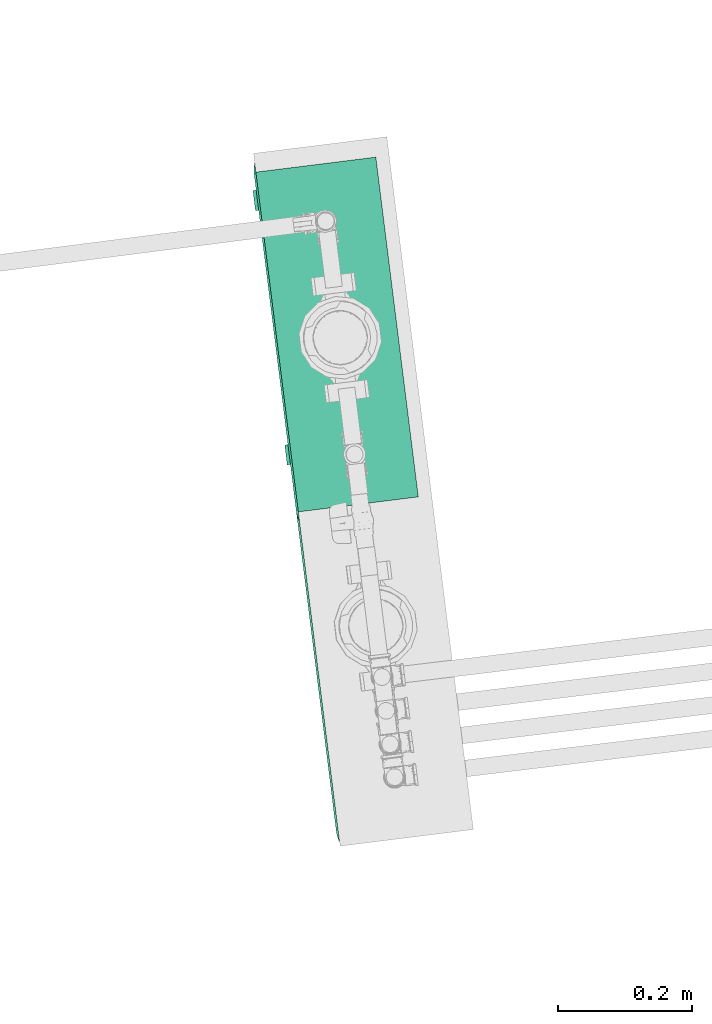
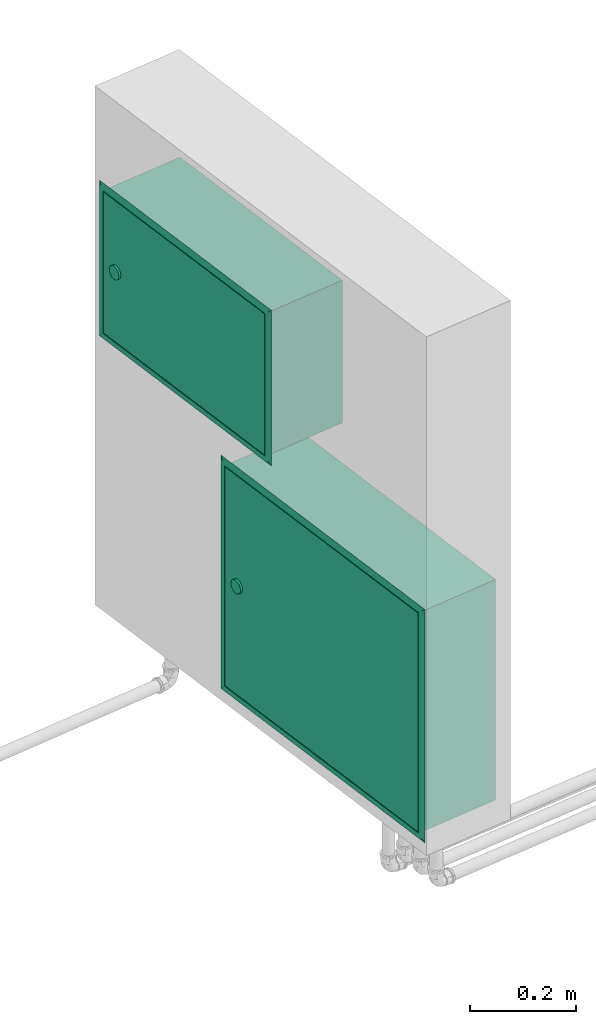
# One storey, part 96 of 97: 2 flow terminals.
"""IFC2X3 building model written with IfcOpenShell, lengths in centimetres."""

from ifc_helpers import new_model, entity, si_unit, converted_unit, derived_unit, direction, frame, origin, place, context, subcontext, project, spatial, faceted_brep, source, transform, mapped, material, material_list, type_object, type_shapes, element, save


model = new_model("IFC2X3")

# Units and contexts
model_context = context("Model", 3, precision=0.001, world=origin(), true_north=direction((6.12303176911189e-17, 1.0)))
body_context = subcontext(model_context, "Body", "Model", "MODEL_VIEW")
ifc_project = project(units=[si_unit("LENGTHUNIT", "METRE", prefix="CENTI"), si_unit("AREAUNIT", "SQUARE_METRE"), si_unit("VOLUMEUNIT", "CUBIC_METRE"), converted_unit("PLANEANGLEUNIT", "DEGREE", entity("IfcRatioMeasure", 0.0174532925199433), si_unit("PLANEANGLEUNIT", "RADIAN"), dimensions=[0, 0, 0, 0, 0, 0, 0]), si_unit("MASSUNIT", "GRAM", prefix="KILO"), derived_unit("MASSDENSITYUNIT", [(si_unit("MASSUNIT", "GRAM", prefix="KILO"), 1), (si_unit("LENGTHUNIT", "METRE"), -3)]), derived_unit("MOMENTOFINERTIAUNIT", [(si_unit("LENGTHUNIT", "METRE"), 4)]), si_unit("TIMEUNIT", "SECOND"), si_unit("FREQUENCYUNIT", "HERTZ"), si_unit("THERMODYNAMICTEMPERATUREUNIT", "DEGREE_CELSIUS"), derived_unit("THERMALTRANSMITTANCEUNIT", [(si_unit("MASSUNIT", "GRAM", prefix="KILO"), 1), (si_unit("THERMODYNAMICTEMPERATUREUNIT", "KELVIN"), -1), (si_unit("TIMEUNIT", "SECOND"), -3)]), derived_unit("VOLUMETRICFLOWRATEUNIT", [(si_unit("LENGTHUNIT", "METRE"), 3), (si_unit("TIMEUNIT", "SECOND"), -1)]), si_unit("ELECTRICCURRENTUNIT", "AMPERE"), si_unit("ELECTRICVOLTAGEUNIT", "VOLT"), si_unit("POWERUNIT", "WATT"), si_unit("FORCEUNIT", "NEWTON", prefix="KILO"), si_unit("ILLUMINANCEUNIT", "LUX"), si_unit("LUMINOUSFLUXUNIT", "LUMEN"), si_unit("LUMINOUSINTENSITYUNIT", "CANDELA"), derived_unit("USERDEFINED", [(si_unit("MASSUNIT", "GRAM", prefix="KILO"), -1), (si_unit("LENGTHUNIT", "METRE"), -2), (si_unit("TIMEUNIT", "SECOND"), 3), (si_unit("LUMINOUSFLUXUNIT", "LUMEN"), 1)]), derived_unit("LINEARVELOCITYUNIT", [(si_unit("LENGTHUNIT", "METRE"), 1), (si_unit("TIMEUNIT", "SECOND"), -1)]), si_unit("PRESSUREUNIT", "PASCAL"), derived_unit("USERDEFINED", [(si_unit("LENGTHUNIT", "METRE"), -2), (si_unit("MASSUNIT", "GRAM", prefix="KILO"), 1), (si_unit("TIMEUNIT", "SECOND"), -2)]), derived_unit("LINEARFORCEUNIT", [(si_unit("MASSUNIT", "GRAM", prefix="KILO"), 1), (si_unit("LENGTHUNIT", "METRE"), 1), (si_unit("TIMEUNIT", "SECOND"), -2), (si_unit("LENGTHUNIT", "METRE"), -1)]), derived_unit("PLANARFORCEUNIT", [(si_unit("MASSUNIT", "GRAM", prefix="KILO"), 1), (si_unit("LENGTHUNIT", "METRE"), 1), (si_unit("TIMEUNIT", "SECOND"), -2), (si_unit("LENGTHUNIT", "METRE"), -2)])], contexts=[model_context])

# Site, building, storey
site_placement = place(None, origin())
site = spatial("IfcSite", under=ifc_project, at=site_placement, Name="Default", CompositionType="ELEMENT")
building_placement = place(site_placement, origin())
building = spatial("IfcBuilding", under=site, at=building_placement, Name="HIDROSSANITÁRIO", CompositionType="ELEMENT")
storey_placement = place(building_placement, frame((0.0, 0.0, -260.0)))
storey = spatial("IfcBuildingStorey", under=building, at=storey_placement, Name="TÉRREO-HID", CompositionType="ELEMENT", Elevation=-260.0)

# Flow terminals
ifc_material_1 = material(Name="Padrão")
ifc_material_2 = material(Name="Vidro")
ifc_material_list_1 = material_list([ifc_material_1, ifc_material_2])
distribution_element_type_1 = type_object("IfcDistributionElementType", Name="CE HS-HID Abrigo hidrômetros:32x50x20", material=ifc_material_1)
shared_shape_1 = source(origin(), body_context, "Body", "Brep", [
    faceted_brep([(22.0775714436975, 0.299999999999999, 14.7009618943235), (22.3882316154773, 0.299999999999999, 14.9393398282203), (22.6266095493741, 0.299999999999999, 15.2500000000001), (22.7764601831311, 0.299999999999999, 15.6117714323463), (22.8275714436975, 0.299999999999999, 16.0), (22.7764601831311, 0.299999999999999, 16.3882285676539), (22.6266095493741, 0.299999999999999, 16.7500000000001), (22.3882316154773, 0.299999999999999, 17.06066017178), (22.0775714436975, 0.299999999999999, 17.2990381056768), (21.7158000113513, 0.299999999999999, 17.4488887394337), (21.3275714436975, 0.299999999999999, 17.5000000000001), (20.9393428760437, 0.299999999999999, 17.4488887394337), (20.5775714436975, 0.299999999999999, 17.2990381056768), (20.2669112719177, 0.299999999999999, 17.06066017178), (20.0285333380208, 0.299999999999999, 16.7500000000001), (19.8786827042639, 0.299999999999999, 16.3882285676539), (19.8275714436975, 0.299999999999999, 16.0), (19.8786827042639, 0.299999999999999, 15.6117714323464), (20.0285333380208, 0.299999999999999, 15.2500000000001), (20.2669112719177, 0.299999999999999, 14.9393398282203), (20.5775714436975, 0.299999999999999, 14.7009618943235), (20.9393428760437, 0.299999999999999, 14.5511112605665), (21.3275714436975, 0.299999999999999, 14.5000000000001), (21.7158000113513, 0.299999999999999, 14.5511112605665), (21.7158000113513, 0.781268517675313, 17.4488887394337), (22.0775714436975, 0.781268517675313, 17.2990381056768), (22.3882316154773, 0.781268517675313, 17.06066017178), (22.6266095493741, 0.781268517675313, 16.7500000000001), (22.7764601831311, 0.781268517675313, 16.3882285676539), (22.8275714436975, 0.781268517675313, 16.0), (22.7764601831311, 0.781268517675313, 15.6117714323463), (22.6266095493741, 0.781268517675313, 15.2500000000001), (22.3882316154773, 0.781268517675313, 14.9393398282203), (22.0775714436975, 0.781268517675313, 14.7009618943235), (21.7158000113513, 0.781268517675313, 14.5511112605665), (21.3275714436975, 0.781268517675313, 14.5000000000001), (20.9393428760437, 0.781268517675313, 14.5511112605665), (20.5775714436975, 0.781268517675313, 14.7009618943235), (20.2669112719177, 0.781268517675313, 14.9393398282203), (20.0285333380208, 0.781268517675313, 15.2500000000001), (19.8786827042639, 0.781268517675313, 15.6117714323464), (19.8275714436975, 0.781268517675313, 16.0), (19.8786827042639, 0.781268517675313, 16.3882285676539), (20.0285333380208, 0.781268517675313, 16.7500000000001), (20.2669112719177, 0.781268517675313, 17.06066017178), (20.5775714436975, 0.781268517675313, 17.2990381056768), (20.9393428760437, 0.781268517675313, 17.4488887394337), (21.3275714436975, 0.781268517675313, 17.5000000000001)], [[[0, 1, 2, 3, 4, 5, 6, 7, 8, 9, 10, 11, 12, 13, 14, 15, 16, 17, 18, 19, 20, 21, 22, 23]], [[24, 25, 26, 27, 28, 29, 30, 31, 32, 33, 34, 35, 36, 37, 38, 39, 40, 41, 42, 43, 44, 45, 46, 47]], [[40, 17, 16, 41]], [[39, 18, 17, 40]], [[20, 19, 38, 37]], [[39, 38, 19, 18]], [[21, 20, 37, 36]], [[22, 21, 36, 35]], [[34, 23, 22, 35]], [[33, 0, 23, 34]], [[2, 1, 32, 31]], [[33, 32, 1, 0]], [[3, 2, 31, 30]], [[4, 3, 30, 29]], [[28, 5, 4, 29]], [[27, 6, 5, 28]], [[8, 7, 26, 25]], [[27, 26, 7, 6]], [[9, 8, 25, 24]], [[10, 9, 24, 47]], [[46, 11, 10, 47]], [[45, 12, 11, 46]], [[14, 13, 44, 43]], [[45, 44, 13, 12]], [[15, 14, 43, 42]], [[16, 15, 42, 41]]]),
    faceted_brep([(-25.3000000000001, 0.0, 32.3000000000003), (-25.3000000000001, 0.0, -0.299999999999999), (25.3000000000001, 0.0, -0.299999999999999), (25.3000000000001, 0.0, 32.3000000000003), (-25.3000000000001, 0.299999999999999, 32.3000000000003), (25.3000000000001, 0.299999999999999, 32.3000000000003), (25.3000000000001, 0.299999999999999, -0.299999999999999), (-25.3000000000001, 0.299999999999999, -0.299999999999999)], [[[0, 1, 2, 3]], [[4, 5, 6, 7]], [[1, 0, 4, 7]], [[2, 1, 7, 6]], [[3, 2, 6, 5]], [[0, 3, 5, 4]]]),
    faceted_brep([(25.5000000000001, 0.0, 32.5000000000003), (25.5000000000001, 0.299999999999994, 32.5000000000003), (25.5000000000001, 0.299999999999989, 24.2500000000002), (25.5000000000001, 0.299999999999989, 16.0), (25.5000000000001, 0.299999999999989, 7.75000000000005), (25.5000000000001, 0.299999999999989, 3.28160970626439), (25.5000000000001, 0.299999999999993, -0.500000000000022), (25.5000000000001, 0.0, -0.500000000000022), (26.2853282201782, 0.18271990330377, 14.6882498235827), (27.0, 0.0, 12.2183902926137), (26.3193611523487, 0.175698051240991, 8.89080485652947), (26.3497039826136, 0.169298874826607, 3.79693678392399), (26.2576614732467, 0.188307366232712, 33.2576614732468), (26.2263525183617, 0.1944999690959, 26.4756704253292), (27.0, 0.0, 34.0), (27.0, 0.0, 26.4367805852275), (26.2057726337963, 0.198495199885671, 20.7987343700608), (27.0, 0.0, 18.8735611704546), (27.0, 0.0, -2.0), (26.2576614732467, 0.188307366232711, -1.25766147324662), (27.0, 0.0, 5.56321941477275), (17.9367198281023, 0.299999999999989, -0.500000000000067), (12.7499196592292, 0.299999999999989, -0.500000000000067), (6.37504017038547, 0.299999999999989, -0.500000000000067), (0.0, 0.299999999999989, -0.500000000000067), (-6.37504017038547, 0.299999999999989, -0.500000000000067), (-12.7499196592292, 0.299999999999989, -0.500000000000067), (-19.1249598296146, 0.299999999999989, -0.500000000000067), (-25.5000000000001, 0.299999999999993, -0.500000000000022), (-25.5000000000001, 0.0, -0.500000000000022), (-19.4369081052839, 0.0, -2.0), (-17.28160970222, 0.186727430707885, -1.26553922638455), (-15.1264776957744, 0.0, -2.0), (-0.387091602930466, 0.177940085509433, -1.30858080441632), (-3.2529553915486, 0.0, -2.0), (-6.22126794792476, 0.176990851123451, -1.31315468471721), (-27.0, 0.0, -2.0), (-26.2576614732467, 0.188307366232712, -1.25766147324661), (19.4367611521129, 0.0, -2.0), (9.24381724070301, 0.189964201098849, -1.24935292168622), (15.3433902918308, 0.181514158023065, -1.29122915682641), (20.7817727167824, 0.207433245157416, -1.15857325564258), (11.8735223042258, 0.0, -2.0), (-11.7612145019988, 0.172968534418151, -1.33237967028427), (-9.18971654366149, 0.0, -2.0), (4.31028345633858, 0.0, -2.0), (-25.5000000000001, 0.299999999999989, 7.75000000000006), (-25.5000000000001, 0.299999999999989, 16.0), (-25.5000000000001, 0.299999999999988, 24.2500000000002), (-25.5000000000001, 0.299999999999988, 28.7183902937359), (-25.5000000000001, 0.299999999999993, 32.5000000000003), (-25.5000000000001, 0.0, 32.5000000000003), (-26.2853282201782, 0.18271990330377, 17.3117501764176), (-27.0, 0.0, 19.7816097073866), (-26.3193611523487, 0.17569805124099, 23.1091951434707), (-26.3497039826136, 0.169298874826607, 28.2030632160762), (-26.2263525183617, 0.1944999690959, 5.52432957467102), (-27.0, 0.0, 5.5632194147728), (-26.2057726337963, 0.198495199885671, 11.2012656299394), (-27.0, 0.0, 13.1264388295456), (-27.0, 0.0, 34.0), (-26.2576614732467, 0.188307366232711, 33.2576614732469), (-27.0, 0.0, 26.4367805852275), (-17.9368805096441, 0.299999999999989, 32.5000000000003), (-12.7500803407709, 0.299999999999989, 32.5000000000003), (-6.37504017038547, 0.299999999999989, 32.5000000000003), (0.0, 0.299999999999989, 32.5000000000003), (6.37504017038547, 0.299999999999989, 32.5000000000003), (12.7500803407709, 0.299999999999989, 32.5000000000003), (19.1249598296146, 0.299999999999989, 32.5000000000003), (19.4368875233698, 0.0, 34.0), (15.1264453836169, 0.0, 34.0), (9.18966807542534, 0.0, 34.0), (3.25289076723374, 0.0, 34.0), (-4.31036866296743, 0.0, 34.0), (-11.8736280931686, 0.0, 34.0), (-19.4367405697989, 0.0, 34.0), (17.28160970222, 0.186727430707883, 33.2655392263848), (0.387091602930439, 0.177940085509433, 33.3085808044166), (6.22126794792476, 0.176990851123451, 33.3131546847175), (-9.24381724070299, 0.189964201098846, 33.2493529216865), (-15.3433902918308, 0.181514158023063, 33.2912291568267), (-20.7817727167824, 0.207433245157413, 33.1585732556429), (11.7612145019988, 0.172968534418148, 33.3323796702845)], [[[0, 1, 2, 3, 4, 5, 6, 7]], [[8, 9, 10]], [[4, 11, 5]], [[1, 12, 13]], [[4, 8, 10]], [[12, 14, 15]], [[10, 11, 4]], [[8, 16, 17]], [[15, 16, 13]], [[18, 19, 11]], [[16, 15, 17]], [[19, 6, 5]], [[20, 10, 9]], [[8, 4, 3]], [[16, 3, 2]], [[17, 9, 8]], [[3, 16, 8]], [[16, 2, 13]], [[1, 13, 2]], [[12, 15, 13]], [[11, 10, 20]], [[18, 11, 20]], [[5, 11, 19]], [[7, 6, 21, 22, 23, 24, 25, 26, 27, 28, 29]], [[30, 31, 32]], [[33, 34, 35]], [[30, 36, 37]], [[19, 18, 38]], [[23, 39, 33]], [[37, 31, 30]], [[22, 40, 39]], [[6, 19, 41]], [[40, 42, 39]], [[40, 41, 38]], [[27, 31, 37]], [[26, 25, 43]], [[27, 37, 28]], [[35, 34, 44]], [[22, 21, 40]], [[26, 31, 27]], [[41, 40, 21]], [[38, 42, 40]], [[25, 35, 43]], [[31, 43, 32]], [[25, 33, 35]], [[33, 39, 45]], [[35, 44, 43]], [[33, 25, 24, 23]], [[45, 34, 33]], [[45, 39, 42]], [[22, 39, 23]], [[32, 43, 44]], [[26, 43, 31]], [[6, 41, 21]], [[38, 41, 19]], [[29, 28, 46, 47, 48, 49, 50, 51]], [[52, 53, 54]], [[48, 55, 49]], [[28, 37, 56]], [[48, 52, 54]], [[37, 36, 57]], [[54, 55, 48]], [[52, 58, 59]], [[57, 58, 56]], [[60, 61, 55]], [[58, 57, 59]], [[61, 50, 49]], [[62, 54, 53]], [[52, 48, 47]], [[58, 47, 46]], [[59, 53, 52]], [[47, 58, 52]], [[58, 46, 56]], [[28, 56, 46]], [[37, 57, 56]], [[55, 54, 62]], [[60, 55, 62]], [[49, 55, 61]], [[51, 50, 63, 64, 65, 66, 67, 68, 69, 1, 0]], [[36, 29, 51]], [[29, 36, 7]], [[7, 36, 30]], [[51, 57, 36]], [[7, 30, 32]], [[7, 32, 44]], [[7, 44, 34]], [[7, 34, 45]], [[7, 45, 42]], [[7, 42, 38]], [[7, 38, 18]], [[7, 18, 0]], [[0, 18, 20]], [[0, 20, 9]], [[0, 9, 17]], [[0, 17, 15]], [[0, 15, 14]], [[0, 14, 70]], [[0, 70, 71]], [[0, 71, 72]], [[0, 72, 73]], [[0, 73, 74]], [[0, 74, 75]], [[0, 75, 76]], [[0, 76, 60]], [[60, 51, 0]], [[51, 60, 62]], [[51, 62, 53]], [[51, 53, 59]], [[51, 59, 57]], [[70, 77, 71]], [[78, 73, 79]], [[70, 14, 12]], [[61, 60, 76]], [[65, 80, 78]], [[12, 77, 70]], [[64, 81, 80]], [[50, 61, 82]], [[81, 75, 80]], [[81, 82, 76]], [[69, 77, 12]], [[68, 67, 83]], [[69, 12, 1]], [[79, 73, 72]], [[64, 63, 81]], [[68, 77, 69]], [[82, 81, 63]], [[76, 75, 81]], [[67, 79, 83]], [[77, 83, 71]], [[67, 78, 79]], [[78, 80, 74]], [[79, 72, 83]], [[78, 67, 66, 65]], [[74, 73, 78]], [[74, 80, 75]], [[64, 80, 65]], [[71, 83, 72]], [[68, 83, 77]], [[50, 82, 63]], [[76, 82, 61]]]),
    faceted_brep([(-25.5000000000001, -18.0, -0.500000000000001), (25.5000000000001, -18.0, -0.500000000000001), (25.5000000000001, -18.0, 32.5000000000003), (-25.5000000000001, -18.0, 32.5000000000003), (25.0, 0.0, 0.0), (25.0, 0.0, 32.0), (-25.0, 0.0, 32.0), (-25.0, 0.0, 0.0), (-25.5000000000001, 0.0, -0.500000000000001), (-25.5000000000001, 0.0, 32.5000000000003), (25.5000000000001, 0.0, 32.5000000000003), (25.5000000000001, 0.0, -0.500000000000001), (-25.0, -17.5, 0.0), (25.0, -17.5, 0.0), (-25.0, -17.5, 32.0), (25.0, -17.5, 32.0), (-25.5000000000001, -17.5, -0.500000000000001), (25.5000000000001, -17.5, -0.500000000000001), (25.5000000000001, -17.5, 32.5000000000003), (-25.5000000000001, -17.5, 32.5000000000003)], [[[0, 1, 2, 3]], [[4, 5, 6, 7], [8, 9, 10, 11]], [[4, 7, 12, 13]], [[7, 6, 14, 12]], [[6, 5, 15, 14]], [[5, 4, 13, 15]], [[1, 0, 16, 8, 11, 17]], [[2, 1, 17, 11, 10, 18]], [[3, 2, 18, 10, 9, 19]], [[0, 3, 19, 9, 8, 16]], [[13, 12, 14, 15]]], outer=[[True], [False, True], [True], [True], [True], [True], [True], [True], [True], [True], [True]]),
])
type_shapes(distribution_element_type_1, [shared_shape_1])
flow_terminal_1_placement = place(storey_placement, frame((-2453.64112493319, 3273.07798384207, 65.0), z_axis=(0.0, 0.0, 1.0), x_axis=(-0.124024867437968, 0.992279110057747, 0.0)))
element("IfcFlowTerminal", 1, at=flow_terminal_1_placement, inside=storey, type_object=distribution_element_type_1, material=ifc_material_list_1, Name="CE HS-HID Abrigo hidrômetros:32x50x20", ObjectType="CE HS-HID Abrigo hidrômetros:32x50x20", context=body_context, shape_type="MappedRepresentation", body=[
    mapped(shared_shape_1, transform((0.0, 0.0, 0.0), scale=1.0)),
])
ifc_material_list_2 = material_list([ifc_material_1, ifc_material_2])
distribution_element_type_2 = type_object("IfcDistributionElementType", Name="CE HS-HID Abrigo hidrômetros:60x60x20", material=ifc_material_1)
shared_shape_2 = source(origin(), body_context, "Body", "Brep", [
    faceted_brep([(27.6266095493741, 0.299999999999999, 24.2500000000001), (27.7764601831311, 0.299999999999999, 24.6117714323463), (27.8275714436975, 0.299999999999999, 25.0), (27.7764601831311, 0.299999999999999, 25.3882285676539), (27.6266095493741, 0.299999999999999, 25.7500000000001), (27.3882316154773, 0.299999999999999, 26.06066017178), (27.0775714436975, 0.299999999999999, 26.2990381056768), (26.7158000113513, 0.299999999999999, 26.4488887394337), (26.3275714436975, 0.299999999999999, 26.5000000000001), (25.9393428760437, 0.299999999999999, 26.4488887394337), (25.5775714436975, 0.299999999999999, 26.2990381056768), (25.2669112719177, 0.299999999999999, 26.06066017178), (25.0285333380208, 0.299999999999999, 25.7500000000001), (24.8786827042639, 0.299999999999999, 25.3882285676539), (24.8275714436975, 0.299999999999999, 25.0), (24.8786827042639, 0.299999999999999, 24.6117714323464), (25.0285333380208, 0.299999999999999, 24.2500000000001), (25.2669112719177, 0.299999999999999, 23.9393398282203), (25.5775714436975, 0.299999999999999, 23.7009618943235), (25.9393428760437, 0.299999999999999, 23.5511112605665), (26.3275714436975, 0.299999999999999, 23.5000000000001), (26.7158000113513, 0.299999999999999, 23.5511112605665), (27.0775714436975, 0.299999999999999, 23.7009618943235), (27.3882316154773, 0.299999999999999, 23.9393398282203), (26.7158000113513, 0.781268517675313, 26.4488887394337), (27.0775714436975, 0.781268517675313, 26.2990381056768), (27.3882316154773, 0.781268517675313, 26.06066017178), (27.6266095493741, 0.781268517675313, 25.7500000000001), (27.7764601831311, 0.781268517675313, 25.3882285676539), (27.8275714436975, 0.781268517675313, 25.0), (27.7764601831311, 0.781268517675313, 24.6117714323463), (27.6266095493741, 0.781268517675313, 24.2500000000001), (27.3882316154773, 0.781268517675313, 23.9393398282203), (27.0775714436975, 0.781268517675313, 23.7009618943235), (26.7158000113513, 0.781268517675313, 23.5511112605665), (26.3275714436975, 0.781268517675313, 23.5000000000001), (25.9393428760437, 0.781268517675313, 23.5511112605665), (25.5775714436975, 0.781268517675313, 23.7009618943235), (25.2669112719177, 0.781268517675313, 23.9393398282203), (25.0285333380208, 0.781268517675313, 24.2500000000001), (24.8786827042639, 0.781268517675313, 24.6117714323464), (24.8275714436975, 0.781268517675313, 25.0), (24.8786827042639, 0.781268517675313, 25.3882285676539), (25.0285333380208, 0.781268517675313, 25.7500000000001), (25.2669112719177, 0.781268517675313, 26.06066017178), (25.5775714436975, 0.781268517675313, 26.2990381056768), (25.9393428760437, 0.781268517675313, 26.4488887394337), (26.3275714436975, 0.781268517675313, 26.5000000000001)], [[[0, 1, 2, 3, 4, 5, 6, 7, 8, 9, 10, 11, 12, 13, 14, 15, 16, 17, 18, 19, 20, 21, 22, 23]], [[24, 25, 26, 27, 28, 29, 30, 31, 32, 33, 34, 35, 36, 37, 38, 39, 40, 41, 42, 43, 44, 45, 46, 47]], [[40, 15, 14, 41]], [[39, 16, 15, 40]], [[18, 17, 38, 37]], [[39, 38, 17, 16]], [[19, 18, 37, 36]], [[20, 19, 36, 35]], [[34, 21, 20, 35]], [[33, 22, 21, 34]], [[0, 23, 32, 31]], [[33, 32, 23, 22]], [[1, 0, 31, 30]], [[2, 1, 30, 29]], [[28, 3, 2, 29]], [[27, 4, 3, 28]], [[6, 5, 26, 25]], [[27, 26, 5, 4]], [[7, 6, 25, 24]], [[8, 7, 24, 47]], [[46, 9, 8, 47]], [[45, 10, 9, 46]], [[12, 11, 44, 43]], [[45, 44, 11, 10]], [[13, 12, 43, 42]], [[14, 13, 42, 41]]]),
    faceted_brep([(-30.3000000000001, 0.0, 50.3000000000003), (-30.3000000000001, 0.0, -0.299999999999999), (30.3000000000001, 0.0, -0.299999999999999), (30.3000000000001, 0.0, 50.3000000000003), (-30.3000000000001, 0.299999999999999, 50.3000000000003), (30.3000000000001, 0.299999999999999, 50.3000000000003), (30.3000000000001, 0.299999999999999, -0.299999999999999), (-30.3000000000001, 0.299999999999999, -0.299999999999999)], [[[0, 1, 2, 3]], [[4, 5, 6, 7]], [[1, 0, 4, 7]], [[2, 1, 7, 6]], [[3, 2, 6, 5]], [[0, 3, 5, 4]]]),
    faceted_brep([(30.5000000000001, 0.0, 50.5000000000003), (30.5000000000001, 0.299999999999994, 50.5000000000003), (30.5000000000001, 0.299999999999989, 42.9368805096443), (30.5000000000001, 0.299999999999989, 37.7500803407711), (30.5000000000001, 0.299999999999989, 31.3750401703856), (30.5000000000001, 0.299999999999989, 25.0), (30.5000000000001, 0.299999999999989, 18.6249598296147), (30.5000000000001, 0.299999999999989, 12.2499196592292), (30.5000000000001, 0.299999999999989, 5.87504017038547), (30.5000000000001, 0.299999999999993, -0.500000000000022), (30.5000000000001, 0.0, -0.500000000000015), (32.0, 0.0, 5.56325943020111), (31.2655392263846, 0.186727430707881, 7.71839029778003), (32.0, 0.0, 9.87355461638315), (31.3085808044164, 0.177940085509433, 24.6129083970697), (32.0, 0.0, 21.7471092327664), (31.3131546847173, 0.176990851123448, 18.7787320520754), (32.0, 0.0, -2.0), (31.2576614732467, 0.188307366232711, -1.25766147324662), (31.2576614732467, 0.188307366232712, 51.2576614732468), (32.0, 0.0, 52.0), (32.0, 0.0, 44.4367405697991), (31.2493529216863, 0.189964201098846, 34.2438172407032), (31.2912291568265, 0.181514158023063, 40.343390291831), (31.1585732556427, 0.207433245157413, 45.7817727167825), (32.0, 0.0, 36.8736280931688), (31.3323796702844, 0.172968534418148, 13.2387854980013), (32.0, 0.0, 15.8103319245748), (32.0, 0.0, 29.3103686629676), (22.9368480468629, 0.299999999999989, -0.500000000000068), (15.2500677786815, 0.299999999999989, -0.50000000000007), (7.62496611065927, 0.299999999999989, -0.500000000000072), (0.0, 0.299999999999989, -0.500000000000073), (-7.68678026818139, 0.299999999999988, -0.500000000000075), (-15.3735605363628, 0.299999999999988, -0.500000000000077), (-22.9367124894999, 0.299999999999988, -0.500000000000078), (-30.5000000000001, 0.299999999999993, -0.500000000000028), (-30.5000000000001, 0.0, -0.500000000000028), (-24.7585632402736, 0.192343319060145, -1.2373358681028), (5.25760197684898, 0.179692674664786, -1.30009810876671), (-31.2576614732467, 0.188307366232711, -1.25766147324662), (-24.436758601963, 0.0, -2.0), (-32.0, 0.0, -2.0), (11.4374999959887, 0.200687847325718, -1.19434548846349), (25.4722408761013, 0.194999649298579, -1.22379532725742), (-19.1551708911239, 0.185857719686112, -1.26985715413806), (-13.3972816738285, 0.189462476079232, -1.25187409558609), (-15.1263586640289, 0.0, -2.0), (24.4367586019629, 0.0, -2.0), (-0.414782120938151, 0.182562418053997, -1.28610032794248), (-6.00732911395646, 0.191268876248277, -1.24277568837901), (16.8736413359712, 0.0, -2.0), (9.31039993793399, 0.0, -2.0), (17.0259109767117, 0.1922377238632, -1.23787142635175), (-6.68960006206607, 0.0, -2.0), (1.7471585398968, 0.0, -2.0), (-30.5000000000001, 0.299999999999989, 7.06311949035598), (-30.5000000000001, 0.299999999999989, 12.2499196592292), (-30.5000000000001, 0.299999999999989, 18.6249598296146), (-30.5000000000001, 0.299999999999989, 25.0), (-30.5000000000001, 0.299999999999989, 31.3750401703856), (-30.5000000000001, 0.299999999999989, 37.7500803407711), (-30.5000000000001, 0.299999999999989, 44.1249598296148), (-30.5000000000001, 0.299999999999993, 50.5000000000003), (-30.5000000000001, 0.0, 50.5000000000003), (-32.0, 0.0, 44.4367405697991), (-31.2655392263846, 0.186727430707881, 42.2816097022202), (-32.0, 0.0, 40.1264453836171), (-31.3085808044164, 0.177940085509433, 25.3870916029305), (-32.0, 0.0, 28.2528907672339), (-31.3131546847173, 0.176990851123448, 31.2212679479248), (-32.0, 0.0, 52.0), (-31.2576614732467, 0.188307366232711, 51.2576614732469), (-32.0, 0.0, 5.56325943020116), (-31.2493529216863, 0.189964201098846, 15.7561827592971), (-31.2912291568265, 0.181514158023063, 9.65660970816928), (-31.1585732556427, 0.207433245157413, 4.21822728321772), (-32.0, 0.0, 13.1263719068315), (-31.3323796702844, 0.172968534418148, 36.7612145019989), (-32.0, 0.0, 34.1896680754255), (-32.0, 0.0, 20.6896313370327), (-22.9367292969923, 0.299999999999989, 50.5000000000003), (-15.2499661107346, 0.299999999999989, 50.5000000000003), (-7.62501694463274, 0.299999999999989, 50.5000000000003), (6.77785308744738e-05, 0.299999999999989, 50.5000000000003), (7.68683096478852, 0.299999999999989, 50.5000000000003), (15.3735941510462, 0.299999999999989, 50.5000000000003), (22.936864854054, 0.299999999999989, 50.5000000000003), (24.436758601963, 0.0, 52.0), (15.1263586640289, 0.0, 52.0), (6.68960006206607, 0.0, 52.0), (-1.7471585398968, 0.0, 52.0), (-9.31039993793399, 0.0, 52.0), (-16.8736413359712, 0.0, 52.0), (-24.4367586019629, 0.0, 52.0), (24.7585632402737, 0.192343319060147, 51.237335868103), (-5.25760197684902, 0.179692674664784, 51.300098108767), (-11.4374999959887, 0.200687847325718, 51.1943454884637), (-25.4722408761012, 0.194999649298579, 51.2237953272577), (19.1551708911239, 0.185857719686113, 51.2698571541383), (13.3972816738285, 0.189462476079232, 51.2518740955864), (0.414782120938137, 0.182562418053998, 51.2861003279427), (6.00732911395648, 0.191268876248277, 51.2427756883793), (-17.0259109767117, 0.1922377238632, 51.237871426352)], [[[0, 1, 2, 3, 4, 5, 6, 7, 8, 9, 10]], [[11, 12, 13]], [[14, 15, 16]], [[11, 17, 18]], [[19, 20, 21]], [[4, 22, 14]], [[18, 12, 11]], [[3, 23, 22]], [[1, 19, 24]], [[23, 25, 22]], [[23, 24, 21]], [[8, 12, 18]], [[7, 6, 26]], [[8, 18, 9]], [[16, 15, 27]], [[3, 2, 23]], [[7, 12, 8]], [[24, 23, 2]], [[21, 25, 23]], [[6, 16, 26]], [[12, 26, 13]], [[6, 14, 16]], [[14, 22, 28]], [[16, 27, 26]], [[14, 6, 5, 4]], [[28, 15, 14]], [[28, 22, 25]], [[3, 22, 4]], [[13, 26, 27]], [[7, 26, 12]], [[1, 24, 2]], [[21, 24, 19]], [[10, 9, 29, 30, 31, 32, 33, 34, 35, 36, 37]], [[36, 35, 38]], [[32, 31, 39]], [[40, 41, 42]], [[31, 43, 39]], [[9, 18, 44]], [[35, 34, 45]], [[46, 47, 45]], [[17, 48, 44]], [[49, 50, 32]], [[34, 46, 45]], [[18, 17, 44]], [[51, 52, 43]], [[48, 51, 53]], [[53, 51, 43]], [[35, 45, 38]], [[47, 41, 45]], [[30, 43, 31]], [[38, 45, 41]], [[39, 49, 32]], [[46, 54, 47]], [[43, 30, 53]], [[39, 52, 55]], [[52, 39, 43]], [[39, 55, 49]], [[55, 54, 49]], [[50, 49, 54]], [[30, 29, 53]], [[53, 29, 44]], [[34, 33, 46]], [[46, 33, 50]], [[41, 40, 38]], [[36, 38, 40]], [[53, 44, 48]], [[9, 44, 29]], [[46, 50, 54]], [[32, 50, 33]], [[37, 36, 56, 57, 58, 59, 60, 61, 62, 63, 64]], [[65, 66, 67]], [[68, 69, 70]], [[65, 71, 72]], [[40, 42, 73]], [[58, 74, 68]], [[72, 66, 65]], [[57, 75, 74]], [[36, 40, 76]], [[75, 77, 74]], [[75, 76, 73]], [[62, 66, 72]], [[61, 60, 78]], [[62, 72, 63]], [[70, 69, 79]], [[57, 56, 75]], [[61, 66, 62]], [[76, 75, 56]], [[73, 77, 75]], [[60, 70, 78]], [[66, 78, 67]], [[60, 68, 70]], [[68, 74, 80]], [[70, 79, 78]], [[68, 60, 59, 58]], [[80, 69, 68]], [[80, 74, 77]], [[57, 74, 58]], [[67, 78, 79]], [[61, 78, 66]], [[36, 76, 56]], [[73, 76, 40]], [[64, 63, 81, 82, 83, 84, 85, 86, 87, 1, 0]], [[42, 37, 64]], [[37, 42, 10]], [[10, 42, 41]], [[64, 73, 42]], [[10, 41, 47]], [[10, 47, 54]], [[10, 54, 55]], [[10, 55, 52]], [[10, 52, 51]], [[10, 51, 48]], [[10, 48, 17]], [[10, 17, 0]], [[0, 17, 11]], [[0, 11, 13]], [[0, 13, 27]], [[0, 27, 15]], [[0, 15, 28]], [[0, 28, 25]], [[0, 25, 21]], [[0, 21, 20]], [[0, 20, 88]], [[0, 88, 89]], [[0, 89, 90]], [[0, 90, 91]], [[0, 91, 92]], [[0, 92, 93]], [[0, 93, 94]], [[0, 94, 71]], [[71, 64, 0]], [[64, 71, 65]], [[64, 65, 67]], [[64, 67, 79]], [[64, 79, 69]], [[64, 69, 80]], [[64, 80, 77]], [[64, 77, 73]], [[1, 87, 95]], [[84, 83, 96]], [[19, 88, 20]], [[83, 97, 96]], [[63, 72, 98]], [[87, 86, 99]], [[100, 89, 99]], [[71, 94, 98]], [[101, 102, 84]], [[86, 100, 99]], [[72, 71, 98]], [[93, 92, 97]], [[94, 93, 103]], [[103, 93, 97]], [[87, 99, 95]], [[89, 88, 99]], [[82, 97, 83]], [[95, 99, 88]], [[96, 101, 84]], [[100, 90, 89]], [[97, 82, 103]], [[96, 92, 91]], [[92, 96, 97]], [[96, 91, 101]], [[91, 90, 101]], [[102, 101, 90]], [[82, 81, 103]], [[103, 81, 98]], [[86, 85, 100]], [[100, 85, 102]], [[88, 19, 95]], [[1, 95, 19]], [[103, 98, 94]], [[63, 98, 81]], [[100, 102, 90]], [[84, 102, 85]]]),
    faceted_brep([(-30.5000000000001, -18.0, -0.500000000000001), (30.5000000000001, -18.0, -0.500000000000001), (30.5000000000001, -18.0, 50.5000000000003), (-30.5000000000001, -18.0, 50.5000000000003), (30.0, 0.0, 0.0), (30.0, 0.0, 50.0), (-30.0, 0.0, 50.0), (-30.0, 0.0, 0.0), (-30.5000000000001, 0.0, -0.500000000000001), (-30.5000000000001, 0.0, 50.5000000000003), (30.5000000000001, 0.0, 50.5000000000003), (30.5000000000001, 0.0, -0.500000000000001), (-30.0, -17.5, 0.0), (30.0, -17.5, 0.0), (-30.0, -17.5, 50.0), (30.0, -17.5, 50.0), (-30.5000000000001, -17.5, -0.500000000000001), (30.5000000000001, -17.5, -0.500000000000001), (30.5000000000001, -17.5, 50.5000000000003), (-30.5000000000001, -17.5, 50.5000000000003)], [[[0, 1, 2, 3]], [[4, 5, 6, 7], [8, 9, 10, 11]], [[4, 7, 12, 13]], [[7, 6, 14, 12]], [[6, 5, 15, 14]], [[5, 4, 13, 15]], [[1, 0, 16, 8, 11, 17]], [[2, 1, 17, 11, 10, 18]], [[3, 2, 18, 10, 9, 19]], [[0, 3, 19, 9, 8, 16]], [[13, 12, 14, 15]]], outer=[[True], [False, True], [True], [True], [True], [True], [True], [True], [True], [True], [True]]),
])
type_shapes(distribution_element_type_2, [shared_shape_2])
flow_terminal_2_placement = place(storey_placement, frame((-2448.28538197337, 3230.22857817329, 4.70000000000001), z_axis=(0.0, 0.0, 1.0), x_axis=(-0.124024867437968, 0.992279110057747, 0.0)))
element("IfcFlowTerminal", 2, at=flow_terminal_2_placement, inside=storey, type_object=distribution_element_type_2, material=ifc_material_list_2, Name="CE HS-HID Abrigo hidrômetros:60x60x20", ObjectType="CE HS-HID Abrigo hidrômetros:60x60x20", context=body_context, shape_type="MappedRepresentation", body=[
    mapped(shared_shape_2, transform((0.0, 0.0, 0.0), scale=1.0)),
])

save(model, "model.ifc")
